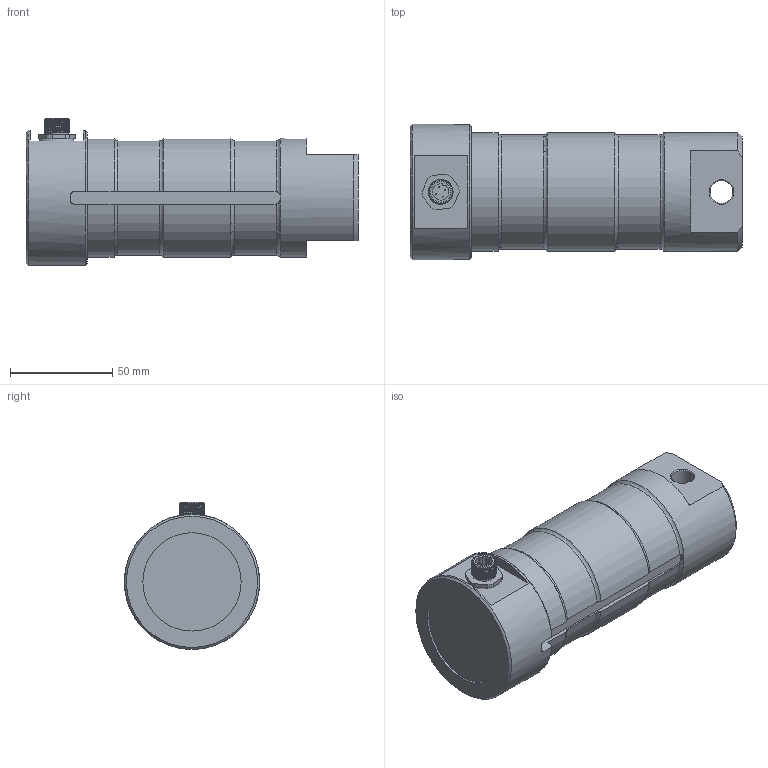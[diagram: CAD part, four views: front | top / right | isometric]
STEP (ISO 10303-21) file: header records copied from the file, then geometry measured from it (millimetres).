
FILE_DESCRIPTION(/* description */ ('Alibre Inc.'),/* implementation_level */ '2;1');
FILE_NAME(/* name */ 'export1',/* time_stamp */ '2014-07-24T10:10:10+02:00',/* author */ (''),/* organization */ (''),/* preprocessor_version */ 'ST-DEVELOPER v14',/* originating_system */ 'Alibre',/* authorisation */ '');
FILE_SCHEMA (('CONFIG_CONTROL_DESIGN'));
Length unit declared in the file: centimetre
Products named in the file (6): ID_1; ID_2; ID_3
Bounding box: 162 x 66 x 71.75 mm (x, y, z)
Volume: 419206.9 mm3; surface area: 43147.9 mm2
Topology: 8 solids, 8 shells, 162 faces, 370 edges, 231 vertices
Faces by surface type: plane 64, cylinder 55, bspline 23, cone 11, torus 9
Full cylindrical faces by diameter (mm): 0.5 x8, 8 x2, 10 x4, 11 x1, 11.5 x1, 13 x1, 14.376 x1, 48 x1, 58 x1, 66 x1
Entity records: 15010 total; most frequent: CARTESIAN_POINT 11486, ORIENTED_EDGE 670, DIRECTION 433, EDGE_CURVE 330, VERTEX_POINT 221, FACE_BOUND 208, EDGE_LOOP 207, AXIS2_PLACEMENT_3D 191
